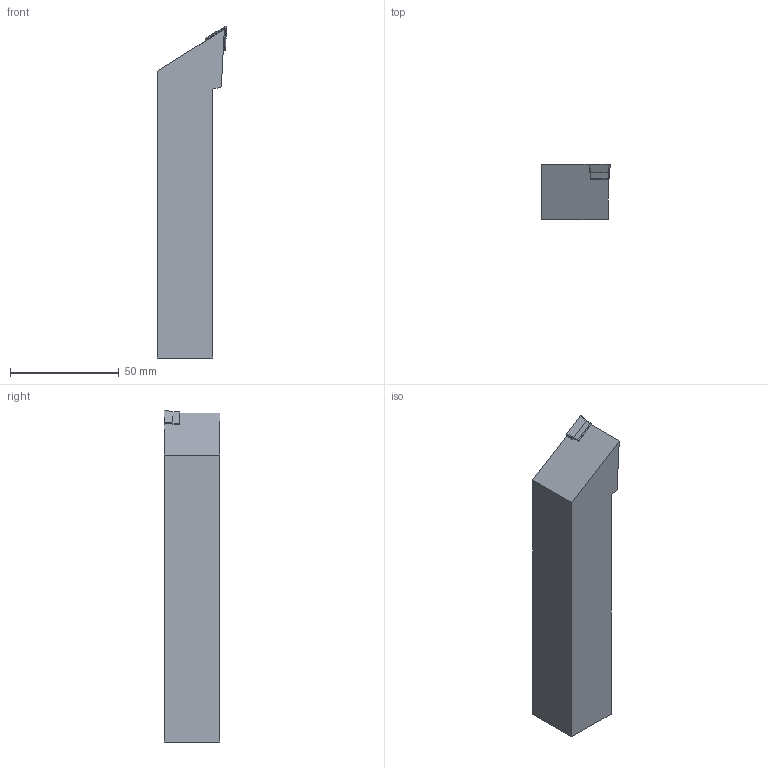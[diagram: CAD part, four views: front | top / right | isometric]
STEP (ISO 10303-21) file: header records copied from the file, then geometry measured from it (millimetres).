
FILE_DESCRIPTION (( 'STEP AP203' ), '1' );
FILE_NAME ('SDJCR16-3D-HAAS.STEP', '2020-11-06T06:59:59', ( '' ), ( '' ), 'SwSTEP 2.0', 'SolidWorks 2015', '' );
FILE_SCHEMA (( 'CONFIG_CONTROL_DESIGN' ));
Length unit declared in the file: millimetre
Products named in the file (5): SDJCR16-3D-HAAS_ル遽; SDJCR16-3D-HAAS; SD32S_ル遽; DCMT11T304_ル遽
Assembly tree (4 placements, depth 3):
  SDJCR16-3D-HAAS
    SDJCR16-3D-HAAS
      SDJCR16-3D-HAAS_ル遽
      SD32S_ル遽
      DCMT11T304_ル遽
Bounding box: 31.75 x 25.4 x 152.4 mm (x, y, z)
Volume: 92970.4 mm3; surface area: 16851.8 mm2
Topology: 3 solids, 3 shells, 43 faces, 101 edges, 65 vertices
Faces by surface type: plane 31, cylinder 9, cone 3
Full cylindrical faces by diameter (mm): 4.5 x1, 5.4 x1, 6.7 x1
Entity records: 1727 total; most frequent: CARTESIAN_POINT 237, DIRECTION 204, ORIENTED_EDGE 194, EDGE_CURVE 97, VECTOR 76, LINE 76, VERTEX_POINT 65, AXIS2_PLACEMENT_3D 64
